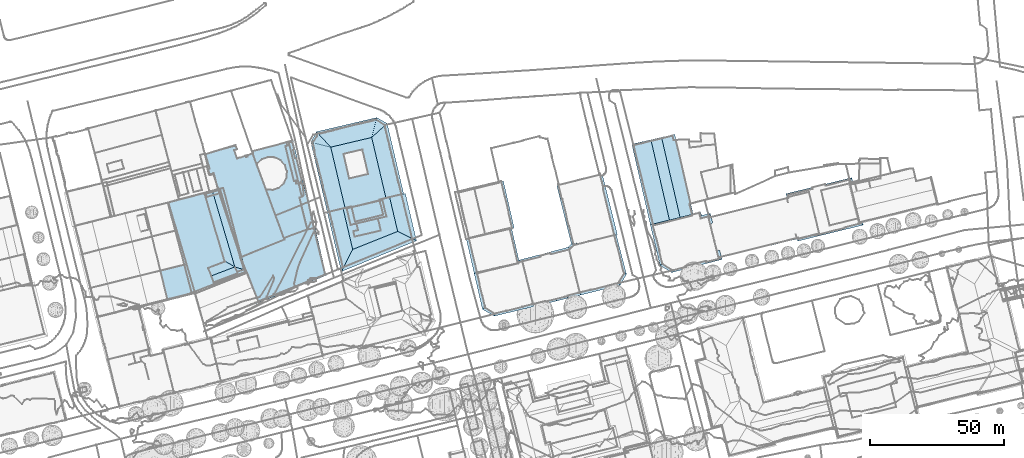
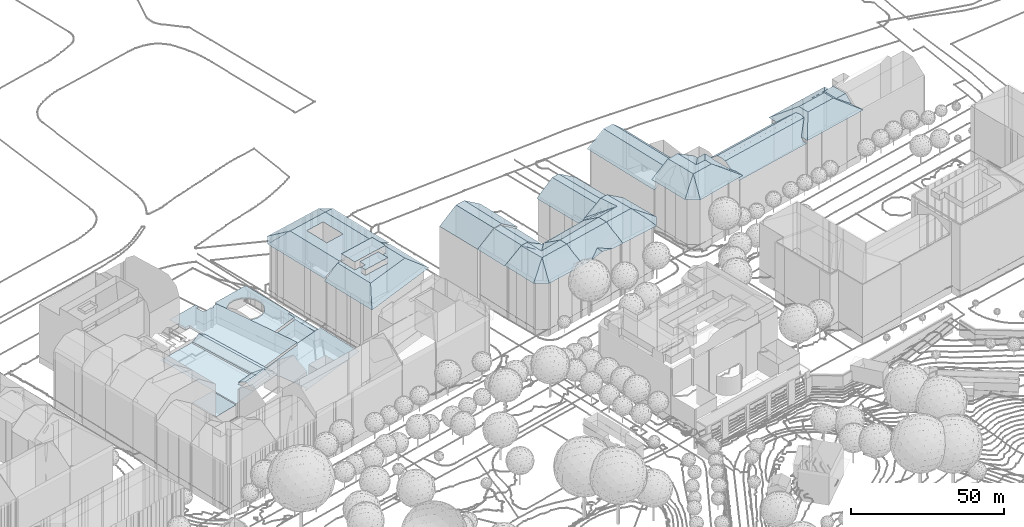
# Not in any storey, part 88 of 477: 20 roofs.
"""IFC4 building model written with IfcOpenShell, lengths in metres."""

from ifc_helpers import new_model, si_unit, frame, origin_with_axes, place, context, subcontext, project, spatial, polygons, element, save


model = new_model("IFC4")

# Units and contexts
model_context = context("Model", 3, precision=1e-05, world=origin_with_axes())
body_context = subcontext(model_context, "Body", "Model", "MODEL_VIEW")
ifc_project = project(units=[si_unit("AREAUNIT", "SQUARE_METRE"), si_unit("LENGTHUNIT", "METRE")], contexts=[model_context])

# Sites, building
site_1_placement = place(None, origin_with_axes())
site_1 = spatial("IfcSite", under=ifc_project, at=site_1_placement, Name="Topoexport Site")
site_2_placement = place(site_1_placement, origin_with_axes())
site_2 = spatial("IfcSite", under=site_1, at=site_2_placement, Name="TPX_BUILDINGS")
building_1_placement = place(site_2_placement, frame((230.2577320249, 452.7801160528, 539.0125), z_axis=(0.0, 0.0, 1.0), x_axis=(1.0, 0.0, 0.0)))
building_1 = spatial("IfcBuilding", under=site_2, at=building_1_placement, Name="Building 197", CompositionType="ELEMENT")

# Roof
roof_1_placement = place(None, frame((230.2577320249, 452.7801160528, 539.0125), z_axis=(0.0, 0.0, 1.0), x_axis=(1.0, 0.0, 0.0)))
element("IfcRoof", 1, at=roof_1_placement, inside=building_1, Name="Roof 0", context=body_context, shape_type="Tessellation", body=[
    polygons([(22.1760000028, 2.0302999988, 25.1226), (6.8570000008, -1.5791000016, 25.1226), (23.8570000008, 8.5830000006, 21.8509), (24.0930000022, 9.504900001, 21.391), (2.2350000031, 3.4296999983, 21.8829), (1.5340000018, 4.1893999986, 21.391), (11.6790000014, -4.1464999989, 25.1226), (13.8490000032, -13.3555000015, 25.1226), (12.2440000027, -24.438500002, 25.1226), (18.75, -2.4805000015, 25.1226), (20.9200000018, -11.6895000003, 25.1226), (27.5240000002, -20.6680000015, 25.1226), (14.689000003, -23.8672000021, 25.1226), (25.1650000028, -21.2373000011, 25.1226), (25.2350000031, -21.5371000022, 25.1226), (14.745000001, -24.0771999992, 25.1226), (29.6030000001, -20.1660000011, 23.9547), (27.1000000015, 6.5088, 21.9449), (27.9580000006, 7.2890000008, 21.391), (34.1680000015, -19.0645000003, 21.3909), (33.3600000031, -19.259800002, 21.8449), (6.3790000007, -25.7998000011, 21.8349), (0.0490000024, 0.0800999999, 21.7119), (-0.5919999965, 0.2353000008, 21.391), (5.5880000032, -25.9902999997, 21.3909)], [[[3, 2, 1]], [[5, 3, 4]], [[3, 5, 2]], [[5, 4, 6]], [[2, 8, 7]], [[8, 2, 9]], [[2, 7, 10]], [[1, 10, 11]], [[10, 1, 2]], [[1, 11, 12]], [[8, 13, 11]], [[13, 14, 11]], [[14, 12, 11]], [[16, 15, 14]], [[14, 13, 16]], [[13, 8, 9]], [[12, 17, 1]], [[20, 19, 18]], [[18, 1, 17]], [[18, 21, 20]], [[18, 17, 21]], [[4, 3, 18]], [[18, 19, 4]], [[1, 18, 3]], [[23, 22, 2]], [[25, 23, 24]], [[22, 9, 2]], [[22, 23, 25]], [[24, 23, 6]], [[5, 6, 23]], [[2, 5, 23]]]),
])

# Building
building_2_placement = place(site_2_placement, frame((236.6347320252, 426.9871160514, 538.7695), z_axis=(0.0, 0.0, 1.0), x_axis=(1.0, 0.0, 0.0)))
building_2 = spatial("IfcBuilding", under=site_2, at=building_2_placement, Name="Building 198", CompositionType="ELEMENT")

# Roofs
roof_2_placement = place(None, frame((236.6347320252, 426.9871160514, 538.7695), z_axis=(0.0, 0.0, 1.0), x_axis=(1.0, 0.0, 0.0)))
element("IfcRoof", 2, at=roof_2_placement, inside=building_2, Name="Roof 0", context=body_context, shape_type="Tessellation", body=[
    polygons([(9.012000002, -7.3016999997, 27.1124), (10.7780000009, -6.8856999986, 27.1124), (9.4869999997, -9.3182999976, 27.1124), (19.2790000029, -7.0117000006, 27.1124), (10.194000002, -4.4043000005, 27.1124), (18.2190000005, -2.5136999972, 27.1124)], [[[3, 2, 1]], [[2, 3, 4]], [[2, 6, 5]], [[6, 2, 4]]]),
])
roof_3_placement = place(None, frame((236.6347320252, 426.9871160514, 538.7695), z_axis=(0.0, 0.0, 1.0), x_axis=(1.0, 0.0, 0.0)))
element("IfcRoof", 3, at=roof_3_placement, inside=building_2, Name="Roof 1", context=body_context, shape_type="Tessellation", body=[
    polygons([(8.6070000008, -19.3710999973, 21.5229), (4.432, -22.3534999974, 20.686), (5.2550000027, -20.7441000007, 21.5019), (8.694000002, -14.0253999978, 24.9116), (25.5140000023, -7.2929999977, 24.9116), (0.0, 0.0, 21.253), (5.0970000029, 1.2393000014, 24.9116), (-0.7899999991, -0.1923999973, 20.686), (9.012000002, -7.3016999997, 24.9116), (9.4869999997, -9.3182999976, 24.9116), (10.7780000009, -6.8856999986, 24.9116), (8.0160000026, -4.9169999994, 24.9116), (10.194000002, -4.4043000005, 24.9116), (19.2790000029, -7.0117000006, 24.9116), (6.5670000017, 1.2305000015, 24.9116), (5.8500000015, 1.4229000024, 24.9116), (8.2880000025, 2.0155999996, 24.9116), (8.3680000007, 1.7158000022, 24.9116), (18.2190000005, -2.5136999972, 24.9116), (21.3790000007, -1.7685000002, 24.9116), (19.9299999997, 4.379900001, 24.9116), (22.5100000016, 5.4530999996, 24.9116), (18.8580000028, 4.2558999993, 24.9116), (18.7880000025, 4.5557000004, 24.9116), (28.3990000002, 6.876000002, 20.686), (32.5620000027, -10.7899999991, 20.686), (31.0030000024, -10.0165999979, 21.6209), (26.9830000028, 6.5331999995, 21.7019), (5.0970000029, 1.2393000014, 24.7116), (5.0980000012, 1.2363000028, 24.7426), (3.375, 0.8203000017, 23.5378), (5.8500000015, 1.4229000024, 24.7116)], [[[3, 2, 1]], [[5, 4, 3]], [[5, 3, 1]], [[7, 6, 3]], [[8, 2, 3]], [[4, 7, 3]], [[3, 6, 8]], [[4, 10, 9]], [[12, 9, 11]], [[12, 11, 13]], [[10, 4, 14]], [[4, 9, 12]], [[12, 7, 4]], [[7, 12, 15]], [[17, 16, 15]], [[15, 16, 7]], [[17, 15, 18]], [[14, 20, 19]], [[20, 14, 5]], [[15, 21, 18]], [[21, 20, 22]], [[22, 20, 5]], [[14, 4, 5]], [[21, 23, 18]], [[21, 24, 23]], [[21, 22, 24]], [[27, 26, 25]], [[5, 27, 28]], [[25, 28, 27]], [[28, 22, 5]], [[1, 2, 26]], [[1, 27, 5]], [[27, 1, 26]], [[31, 30, 29]], [[32, 29, 30]]]),
])
roof_4_placement = place(None, frame((236.6347320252, 426.9871160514, 538.7695), z_axis=(0.0, 0.0, 1.0), x_axis=(1.0, 0.0, 0.0)))
element("IfcRoof", 4, at=roof_4_placement, inside=building_2, Name="Roof 2", context=body_context, shape_type="Tessellation", body=[
    polygons([(8.0160000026, -4.9169999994, 28.0713), (19.9299999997, 4.379900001, 28.0713), (21.3790000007, -1.7685000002, 28.0713), (6.5670000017, 1.2305000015, 28.0713)], [[[3, 2, 1]], [[4, 1, 2]]]),
])

# Building
building_3_placement = place(site_2_placement, frame((283.6617320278, 434.311316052, 538.7775), z_axis=(0.0, 0.0, 1.0), x_axis=(1.0, 0.0, 0.0)))
building_3 = spatial("IfcBuilding", under=site_2, at=building_3_placement, Name="Building 200", CompositionType="ELEMENT")

# Roof
roof_5_placement = place(None, frame((283.6617320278, 434.311316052, 538.7775), z_axis=(0.0, 0.0, 1.0), x_axis=(1.0, 0.0, 0.0)))
element("IfcRoof", 5, at=roof_5_placement, inside=building_3, Name="Roof 0", context=body_context, shape_type="Tessellation", body=[
    polygons([(14.1519999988, -15.2157999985, 26.1374), (9.9450000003, 2.3330000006, 26.1805), (14.2960000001, -15.1748000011, 26.1374), (14.7309999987, -15.0731999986, 26.1374), (11.3239999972, -15.8759000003, 26.1404), (10.8019999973, 2.5371000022, 26.1365), (20.481999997, -13.75, 22.1768), (21.1209999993, -13.6035000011, 21.7359), (4.6229999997, -14.6415999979, 21.9539), (4.1699999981, -17.5546999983, 21.2009), (7.1600000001, 1.6689999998, 26.1705), (0.0, 0.0, 21.1559), (1.1669999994, 0.2725000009, 21.9729), (20.9780000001, -11.8506000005, 21.5749), (22.0720000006, -13.3973999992, 21.0839), (17.4519999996, 3.3311000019, 21.6649), (17.2469999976, 4.0751999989, 21.6909), (18.0109999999, 4.2588, 21.1619)], [[[3, 2, 1]], [[2, 3, 4]], [[2, 5, 1]], [[2, 4, 6]], [[7, 6, 4]], [[6, 7, 8]], [[10, 5, 9]], [[11, 9, 5]], [[13, 12, 9]], [[9, 11, 13]], [[10, 9, 12]], [[5, 2, 11]], [[14, 6, 8]], [[8, 15, 14]], [[17, 6, 16]], [[16, 14, 15]], [[14, 16, 6]], [[16, 15, 18]], [[18, 17, 16]]]),
])

# Building
building_4_placement = place(site_2_placement, frame((308.8567320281, 408.4549160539, 538.5095), z_axis=(0.0, 0.0, 1.0), x_axis=(1.0, 0.0, 0.0)))
building_4 = spatial("IfcBuilding", under=site_2, at=building_4_placement, Name="Building 201", CompositionType="ELEMENT")

# Roof
roof_6_placement = place(None, frame((308.8567320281, 408.4549160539, 538.5095), z_axis=(0.0, 0.0, 1.0), x_axis=(1.0, 0.0, 0.0)))
element("IfcRoof", 6, at=roof_6_placement, inside=building_4, Name="Roof 0", context=body_context, shape_type="Tessellation", body=[
    polygons([(20.5169999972, -7.8545000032, 24.3446), (21.1730000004, -10.4922000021, 22.9007), (16.0429999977, -13.2539000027, 21.9528), (17.5259999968, -13.6045000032, 21.6258), (12.1549999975, -12.3379000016, 22.8087), (21.481999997, -11.7373000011, 22.0998), (21.6899999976, -12.572300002, 21.5059), (12.7699999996, -14.7539000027, 22.6967), (7.8849999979, -15.9854000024, 21.6258), (9.057, -14.9844000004, 21.9508), (3.057, -12.2881000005, 24.3036), (5.8849999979, -15.5283000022, 22.1838), (3.7410000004, -15.0381000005, 22.7807), (4.0009999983, -16.0850000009, 22.1238), (4.1969999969, -16.875, 21.6278), (1.8229999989, -7.3281000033, 26.2114), (19.6349999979, -4.3057000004, 26.2034), (19.8399999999, -5.130900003, 26.2024), (2.3619999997, -9.4942000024, 26.2094), (-0.199000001, 0.7987999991, 21.4219), (17.0199999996, 5.3085999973, 21.3799), (7.6030000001, 2.3261999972, 21.6629), (6.7300000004, 2.0487999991, 21.6889), (1.2280000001, 0.3055999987, 21.8539), (0.0, 0.0, 21.8489), (0.0189999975, -0.077200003, 21.8899), (1.0329999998, -4.1513999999, 24.6236), (13.9749999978, 3.5067999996, 21.9978), (18.9299999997, -1.4707000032, 26.1614), (1.5929999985, -6.4024000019, 26.1974), (17.4709999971, 4.3944999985, 22.0598), (17.2699999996, 5.2030999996, 21.4949), (17.2009999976, 5.4794999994, 21.3729)], [[[3, 2, 1]], [[3, 4, 2]], [[5, 3, 1]], [[2, 4, 6]], [[6, 4, 7]], [[5, 8, 3]], [[8, 4, 3]], [[10, 9, 8]], [[8, 5, 10]], [[10, 5, 11]], [[9, 10, 12]], [[10, 13, 12]], [[13, 10, 11]], [[13, 14, 12]], [[15, 9, 12]], [[15, 12, 14]], [[18, 17, 16]], [[16, 19, 18]], [[1, 18, 19]], [[1, 11, 5]], [[11, 1, 19]], [[22, 21, 20]], [[23, 22, 20]], [[25, 24, 23]], [[26, 24, 25]], [[25, 23, 20]], [[27, 24, 26]], [[24, 27, 23]], [[28, 21, 22]], [[23, 27, 22]], [[22, 27, 28]], [[27, 29, 28]], [[29, 27, 30]], [[32, 28, 31]], [[21, 28, 32]], [[31, 28, 29]], [[30, 16, 17]], [[17, 29, 30]], [[32, 33, 21]]]),
])

# Building
building_5_placement = place(site_2_placement, frame((291.8077320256, 404.2273160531, 538.5095), z_axis=(0.0, 0.0, 1.0), x_axis=(1.0, 0.0, 0.0)))
building_5 = spatial("IfcBuilding", under=site_2, at=building_5_placement, Name="Building 202", CompositionType="ELEMENT")

# Roof
roof_7_placement = place(None, frame((291.8077320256, 404.2273160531, 538.5095), z_axis=(0.0, 0.0, 1.0), x_axis=(1.0, 0.0, 0.0)))
element("IfcRoof", 7, at=roof_7_placement, inside=building_5, Name="Roof 0", context=body_context, shape_type="Tessellation", body=[
    polygons([(9.0560000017, 2.1123999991, 25.9625), (10.2349999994, -4.5654000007, 26.2154), (8.7290000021, 2.0372000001, 26.1704), (6.251000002, 1.4580999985, 26.1834), (15.3000000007, 3.6279999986, 22.2338), (15.813000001, 3.7529999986, 21.9278), (6.0329999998, 1.4072999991, 26.1255), (8.4750000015, -7.9970000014, 26.2134), (20.1060000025, -8.0604999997, 24.3036), (20.7900000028, -10.8104999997, 22.7807), (21.2459999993, -12.6473999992, 21.6278), (6.4940000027, -16.2080000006, 21.6357), (6.688000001, -15.4052000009, 22.0827), (21.0500000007, -11.8574000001, 22.1238), (2.0260000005, -13.6766999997, 21.6257), (0.4189999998, -1.4394000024, 22.3578), (-1.0500000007, -0.2431000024, 21.6549), (0.0, 0.0, 22.3178), (18.6420000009, -2.1748000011, 26.1974), (18.0820000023, 0.0762000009, 24.6236), (18.8720000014, -3.1005000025, 26.2114), (19.4110000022, -5.2666000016, 26.2094), (15.6740000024, 4.7188000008, 21.4249), (17.0490000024, 4.2276000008, 21.8489), (15.7900000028, 3.9122000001, 21.8449), (17.068, 4.1503999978, 21.8899), (16.8500000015, 5.0263999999, 21.4219)], [[[3, 2, 1]], [[3, 4, 2]], [[1, 2, 5]], [[6, 5, 2]], [[2, 4, 7]], [[8, 2, 7]], [[8, 10, 9]], [[13, 12, 11]], [[8, 13, 10]], [[13, 14, 10]], [[14, 13, 11]], [[12, 13, 15]], [[15, 13, 8]], [[18, 17, 16]], [[16, 8, 7]], [[16, 7, 18]], [[16, 17, 15]], [[15, 8, 16]], [[20, 2, 19]], [[2, 21, 19]], [[2, 8, 21]], [[22, 21, 8]], [[8, 9, 22]], [[25, 24, 23]], [[26, 25, 6]], [[24, 27, 23]], [[24, 25, 26]], [[26, 6, 2]], [[2, 20, 26]]]),
])

# Building
building_6_placement = place(site_2_placement, frame((322.3647320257, 436.9627160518, 538.8935), z_axis=(0.0, 0.0, 1.0), x_axis=(1.0, 0.0, 0.0)))
building_6 = spatial("IfcBuilding", under=site_2, at=building_6_placement, Name="Building 203", CompositionType="ELEMENT")

# Roof
roof_8_placement = place(None, frame((322.3647320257, 436.9627160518, 538.8935), z_axis=(0.0, 0.0, 1.0), x_axis=(1.0, 0.0, 0.0)))
element("IfcRoof", 8, at=roof_8_placement, inside=building_6, Name="Roof 0", context=body_context, shape_type="Tessellation", body=[
    polygons([(9.0160000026, 2.2666000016, 22.2648), (14.6490000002, -20.2509999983, 22.2648), (11.8310000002, -20.9481999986, 22.2648), (6.2010000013, 1.558600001, 22.2648), (5.693, -22.4668000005, 17.8982), (0.0, 0.0, 17.8492), (-0.7179999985, -0.1796999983, 17.3383), (4.9059999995, -22.6620999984, 17.3382), (15.5370000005, 3.9061999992, 17.8512), (21.9340000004, -18.4481999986, 17.3382), (20.9400000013, -18.6942999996, 18.0102), (16.2939999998, 4.0956999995, 17.3383)], [[[3, 2, 1]], [[3, 1, 4]], [[6, 5, 3]], [[6, 3, 4]], [[8, 6, 7]], [[6, 8, 5]], [[11, 10, 9]], [[2, 11, 1]], [[11, 9, 1]], [[9, 10, 12]]]),
])

# Building
building_7_placement = place(site_2_placement, frame((288.8057320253, 417.0477160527, 538.6815), z_axis=(0.0, 0.0, 1.0), x_axis=(1.0, 0.0, 0.0)))
building_7 = spatial("IfcBuilding", under=site_2, at=building_7_placement, Name="Building 204", CompositionType="ELEMENT")

# Roof
roof_9_placement = place(None, frame((288.8057320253, 417.0477160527, 538.6815), z_axis=(0.0, 0.0, 1.0), x_axis=(1.0, 0.0, 0.0)))
element("IfcRoof", 9, at=roof_9_placement, inside=building_7, Name="Roof 0", context=body_context, shape_type="Tessellation", body=[
    polygons([(12.0899999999, -10.7422000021, 25.9554), (6.3619999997, 1.4580000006, 25.9555), (9.1500000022, 2.0956999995, 25.9555), (9.3030000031, -11.379900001, 25.9555), (15.3370000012, 3.5135999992, 21.6959), (18.3300000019, -9.3125, 21.6609), (18.9220000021, -9.1768000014, 21.2529), (15.9810000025, 3.6611000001, 21.2529), (3.0020000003, -12.8233000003, 21.9248), (0.0, 0.0, 21.8859), (1.9519999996, -13.063500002, 21.2529), (-0.9890000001, -0.2256000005, 21.2529)], [[[3, 2, 1]], [[4, 1, 2]], [[1, 6, 5]], [[8, 6, 7]], [[1, 5, 3]], [[5, 6, 8]], [[9, 4, 2]], [[11, 9, 10]], [[2, 10, 9]], [[10, 12, 11]]]),
])

# Building
building_8_placement = place(site_2_placement, frame((326.3277320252, 412.8494160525, 538.5095), z_axis=(0.0, 0.0, 1.0), x_axis=(1.0, 0.0, 0.0)))
building_8 = spatial("IfcBuilding", under=site_2, at=building_8_placement, Name="Building 205", CompositionType="ELEMENT")

# Roof
roof_10_placement = place(None, frame((326.3277320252, 412.8494160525, 538.5095), z_axis=(0.0, 0.0, 1.0), x_axis=(1.0, 0.0, 0.0)))
element("IfcRoof", 10, at=roof_10_placement, inside=building_8, Name="Roof 0", context=body_context, shape_type="Tessellation", body=[
    polygons([(4.012000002, -16.1328000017, 22.0998), (16.4050000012, -10.253899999, 23.5867), (4.2190000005, -16.9668000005, 21.5059), (13.1330000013, -6.8388999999, 26.1984), (3.7020000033, -14.8867000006, 22.9007), (3.0460000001, -12.2490000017, 24.3446), (10.2670000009, 3.7578000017, 26.2694), (9.9060000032, -3.4629000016, 26.1434), (9.9140000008, 3.6708999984, 26.2564), (2.1640000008, -8.7001999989, 26.2034), (1.4590000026, -5.8652000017, 26.1614), (2.3690000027, -9.5254000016, 26.2024), (7.6760000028, 3.1171999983, 26.2614), (7.4759999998, 3.0683999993, 26.2614), (1.7750000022, 1.6572000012, 21.7879), (0.9140000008, 2.1992000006, 21.3269), (-0.2699999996, 1.0850000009, 21.3729), (-0.2009999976, 0.808600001, 21.4949), (0.5260000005, 0.5009999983, 21.8298), (0.0, 0.0, 22.0598), (18.745000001, -11.9169999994, 21.7338), (19.0950000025, -13.2811999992, 21.0779), (18.3960000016, -12.496100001, 21.7298), (17.7730000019, -8.128899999, 23.5547), (17.4280000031, 3.253899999, 21.8478), (16.9660000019, 5.4160000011, 21.7678), (17.3600000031, 5.5146999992, 21.5089), (10.6460000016, 3.8526000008, 26.0254), (20.5439999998, -8.8817999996, 21.8728), (21.3840000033, -9.1094000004, 21.3629), (17.5700000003, 5.566399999, 21.3629)], [[[3, 2, 1]], [[1, 2, 4]], [[1, 4, 5]], [[5, 4, 6]], [[9, 8, 7]], [[4, 7, 8]], [[11, 10, 4]], [[4, 8, 11]], [[4, 10, 12]], [[6, 4, 12]], [[14, 8, 13]], [[13, 8, 9]], [[16, 15, 14]], [[8, 14, 15]], [[16, 17, 15]], [[19, 17, 18]], [[8, 15, 17]], [[8, 17, 19]], [[11, 8, 19]], [[19, 18, 20]], [[19, 20, 11]], [[23, 22, 21]], [[24, 2, 23]], [[24, 23, 21]], [[24, 4, 2]], [[27, 26, 25]], [[25, 4, 24]], [[4, 25, 26]], [[2, 3, 23]], [[22, 23, 3]], [[28, 4, 26]], [[7, 4, 28]], [[29, 25, 24]], [[25, 29, 30]], [[25, 31, 27]], [[31, 25, 30]], [[21, 22, 30]], [[29, 24, 21]], [[30, 29, 21]]]),
])

# Building
building_9_placement = place(site_2_placement, frame((350.3717320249, 451.8328160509, 539.2744), z_axis=(0.0, 0.0, 1.0), x_axis=(1.0, 0.0, 0.0)))
building_9 = spatial("IfcBuilding", under=site_2, at=building_9_placement, Name="Building 206", CompositionType="ELEMENT")

# Roof
roof_11_placement = place(None, frame((350.3717320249, 451.8328160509, 539.2744), z_axis=(0.0, 0.0, 1.0), x_axis=(1.0, 0.0, 0.0)))
element("IfcRoof", 11, at=roof_11_placement, inside=building_9, Name="Roof 0", context=body_context, shape_type="Tessellation", body=[
    polygons([(10.568, 2.5850000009, 21.9849), (6.6030000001, 1.6152000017, 21.9849), (6.4800000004, 2.1455000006, 21.9849), (10.4570000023, 3.0654000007, 21.9849), (17.6970000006, -28.2821999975, 21.9848), (13.7200000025, -29.2011999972, 21.9848), (15.3710000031, 4.2012000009, 17.4763), (15.875, 2.0215000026, 17.4763), (21.376000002, -21.8007999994, 17.4763), (22.6110000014, -27.1473999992, 17.4763), (-0.6949999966, 0.4893000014, 17.4763), (6.5450000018, -30.8583999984, 17.4763)], [[[3, 2, 1]], [[1, 4, 3]], [[2, 5, 1]], [[6, 5, 2]], [[4, 1, 7]], [[8, 7, 1]], [[1, 9, 8]], [[10, 9, 5]], [[5, 9, 1]], [[11, 2, 3]], [[2, 11, 6]], [[12, 6, 11]]]),
])

# Building
building_10_placement = place(site_2_placement, frame((378.372732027, 425.1658160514, 539.4553), z_axis=(0.0, 0.0, 1.0), x_axis=(1.0, 0.0, 0.0)))
building_10 = spatial("IfcBuilding", under=site_2, at=building_10_placement, Name="Building 207", CompositionType="ELEMENT")

# Roof
roof_12_placement = place(None, frame((378.372732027, 425.1658160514, 539.4553), z_axis=(0.0, 0.0, 1.0), x_axis=(1.0, 0.0, 0.0)))
element("IfcRoof", 12, at=roof_12_placement, inside=building_10, Name="Roof 0", context=body_context, shape_type="Tessellation", body=[
    polygons([(49.7650000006, 8.259800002, 24.2637), (42.9739999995, 6.5987000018, 24.2637), (42.9589999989, 6.6601999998, 24.2637), (53.7670000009, 9.3027999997, 24.2637), (55.1570000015, 3.6768000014, 24.3037), (51.068, 2.6768000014, 24.3037), (55.8299999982, 0.9530999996, 21.5439), (49.5329999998, 2.0401000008, 25.3786), (38.449000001, -0.6708999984, 25.3786), (37.4340000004, 3.4814999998, 25.3786), (48.5179999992, 6.1933999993, 25.3786), (29.8159999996, 8.1328000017, 21.259), (29.8669999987, 5.1484999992, 20.827), (29.436999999, 6.9081999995, 20.827), (29.0179999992, 8.6201000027, 20.827), (35.7190000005, 2.5595999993, 24.1447), (36.4279999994, 0.6865000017, 24.3047), (33.0839999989, -8.0057999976, 20.827), (32.6669999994, -6.2987999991, 20.827), (33.8370000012, -8.3134999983, 21.2579), (33.3550000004, -9.1132999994, 20.827), (36.6629999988, -1.3016999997, 24.1447), (56.631000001, -2.2928999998, 21.5399), (57.949000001, -3.0975999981, 20.827), (56.9820000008, -2.5077999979, 21.3499), (57.0370000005, -2.5409999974, 21.3199), (54.2650000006, 11.9629000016, 20.827), (53.3000000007, 11.1953000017, 21.5599), (53.2829999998, 11.2655999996, 21.5599), (52.936999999, 13.5175999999, 21.4289), (49.8530000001, 8.4063000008, 24.1847), (53.6110000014, 14.634800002, 20.827), (42.9450000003, 6.7168000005, 24.1847), (32.7230000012, -6.5282999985, 20.627), (3.7060000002, -14.8319999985, 19.6311), (33.0839999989, -8.0057999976, 19.3341), (3.8720000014, -15.4969999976, 19.0482), (4.3539999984, -15.378899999, 19.0482), (2.4180000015, -9.6766999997, 24.1447), (33.7300000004, -8.1952999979, 19.0482), (33.6479999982, -7.8662, 19.3361), (2.6609999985, -12.436499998, 21.8189), (2.0109999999, -9.7773000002, 24.1447), (3.1570000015, -12.6367000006, 21.5529), (1.5390000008, -7.8456999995, 24.3047), (1.0659999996, -5.9149999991, 24.1447), (0.3500000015, -2.9862999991, 21.5829), (0.6510000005, -2.6044999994, 21.328), (29.8110000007, 5.3780000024, 20.627), (0.4160000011, 0.1016000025, 19.0488), (29.4371000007, 6.9079999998, 19.2895), (0.0, 0.0, 19.0488), (29.9499999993, 7.3252000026, 19.0482), (30.0179999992, 7.0527999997, 19.2872), (57.4529999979, -1.0692999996, 20.827), (56.193, -0.5185000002, 21.5419)], [[[3, 2, 1]], [[1, 5, 4]], [[5, 1, 6]], [[1, 4, 3]], [[6, 7, 5]], [[10, 9, 8]], [[8, 11, 10]], [[14, 13, 12]], [[15, 14, 12]], [[12, 16, 10]], [[16, 12, 13]], [[10, 16, 17]], [[20, 19, 18]], [[20, 18, 21]], [[17, 9, 10]], [[9, 17, 22]], [[22, 20, 9]], [[19, 20, 22]], [[23, 9, 20]], [[23, 8, 9]], [[20, 21, 24]], [[26, 25, 20]], [[25, 23, 20]], [[26, 20, 24]], [[29, 28, 27]], [[31, 29, 30]], [[27, 32, 30]], [[27, 30, 29]], [[30, 32, 12]], [[1, 2, 11]], [[30, 33, 31]], [[30, 12, 33]], [[12, 32, 15]], [[33, 12, 10]], [[10, 2, 33]], [[2, 10, 11]], [[35, 34, 19]], [[36, 34, 35]], [[38, 35, 37]], [[36, 35, 38]], [[19, 22, 39]], [[41, 36, 40]], [[38, 40, 36]], [[39, 43, 42]], [[44, 19, 42]], [[35, 19, 44]], [[19, 39, 42]], [[22, 45, 39]], [[45, 22, 17]], [[45, 43, 39]], [[17, 16, 45]], [[45, 16, 46]], [[46, 16, 13]], [[48, 47, 13]], [[13, 47, 46]], [[48, 13, 49]], [[52, 51, 50]], [[49, 52, 48]], [[51, 52, 49]], [[54, 53, 51]], [[51, 53, 50]], [[24, 55, 26]], [[55, 25, 26]], [[25, 55, 23]], [[55, 56, 23]], [[6, 56, 7]], [[8, 6, 11]], [[8, 23, 6]], [[11, 6, 1]], [[6, 23, 56]], [[33, 3, 31]], [[31, 3, 4]], [[31, 4, 29]]]),
])

# Building
building_11_placement = place(site_2_placement, frame((357.6657320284, 421.8289160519, 539.1994), z_axis=(0.0, 0.0, 1.0), x_axis=(1.0, 0.0, 0.0)))
building_11 = spatial("IfcBuilding", under=site_2, at=building_11_placement, Name="Building 208", CompositionType="ELEMENT")

# Roof
roof_13_placement = place(None, frame((357.6657320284, 421.8289160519, 539.1994), z_axis=(0.0, 0.0, 1.0), x_axis=(1.0, 0.0, 0.0)))
element("IfcRoof", 13, at=roof_13_placement, inside=building_11, Name="Roof 0", context=body_context, shape_type="Tessellation", body=[
    polygons([(17.9029999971, 2.6816000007, 21.7559), (17.7619999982, 3.1669999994, 21.4499), (18.1679999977, 3.8115000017, 21.1109), (16.1769999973, -4.6942999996, 25.9655), (12.3409999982, -5.442400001, 25.9655), (20.6989999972, 3.371100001, 21.7719), (21.3929999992, 4.6074000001, 21.1289), (20.9549999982, 2.3456999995, 21.7799), (21.7029999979, 3.4483000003, 21.1249), (21.4729999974, 0.2743999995, 21.7859), (22.2619999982, 1.2734000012, 21.1209), (21.4959999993, 0.1777999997, 21.7869), (17.1619999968, 4.7021999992, 21.6109), (10.4019999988, 2.6436000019, 25.9645), (10.2859999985, 3.128899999, 25.9645), (17.2289999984, 4.8427999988, 21.5499), (17.8669999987, 5.0, 21.1349), (6.5079999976, 2.1953000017, 25.9655), (6.055999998, 2.0850000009, 25.9655), (6.182, 1.572300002, 25.9655), (8.9079999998, -9.5381000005, 25.9685), (0.0639999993, -0.2567999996, 21.8319), (-0.6010000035, 0.4404000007, 21.5209), (16.8759999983, -7.5830000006, 25.9654), (7.8339999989, -16.6503999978, 21.5419), (6.9599999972, -17.5273000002, 21.1139), (7.1589999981, -16.7118999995, 21.6089), (3.4959999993, -14.1338, 21.8198), (2.6209999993, -14.8779000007, 21.1489), (-1.0480000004, 0.3311000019, 21.2199), (24.5179999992, -11.9131000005, 21.9588), (24.379999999, -11.3623000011, 21.9558), (25.6219999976, -11.9882999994, 21.2919), (25.7829999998, -12.629900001, 21.2959), (23.932, -9.5713, 22.0188), (25.0949999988, -9.8984000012, 21.3689), (22.1539999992, -2.4512000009, 21.8308), (22.2019999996, -2.6475000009, 21.8358), (22.3929999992, -3.4100999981, 21.8478), (22.943, -5.6112999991, 21.8838), (22.6509999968, -4.442400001, 21.8638), (22.9919999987, -5.808600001, 21.8828), (23.0419999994, -6.0088, 21.8818), (23.125, -6.3388999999, 21.8938), (23.754999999, -8.8623000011, 21.9918), (24.9549999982, -9.3486000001, 21.3489)], [[[3, 2, 1]], [[1, 5, 4]], [[5, 1, 2]], [[1, 4, 6]], [[3, 6, 7]], [[6, 3, 1]], [[9, 7, 8]], [[6, 4, 8]], [[6, 8, 7]], [[11, 9, 10]], [[10, 9, 8]], [[10, 4, 12]], [[4, 10, 8]], [[14, 5, 13]], [[14, 16, 15]], [[16, 14, 13]], [[17, 16, 13]], [[17, 13, 2]], [[2, 3, 17]], [[5, 2, 13]], [[14, 15, 18]], [[5, 14, 18]], [[20, 18, 19]], [[21, 5, 18]], [[21, 18, 20]], [[23, 22, 20]], [[23, 20, 19]], [[20, 22, 21]], [[5, 24, 4]], [[21, 24, 5]], [[27, 26, 25]], [[25, 24, 21]], [[25, 21, 27]], [[26, 27, 28]], [[26, 28, 29]], [[28, 27, 21]], [[23, 30, 22]], [[22, 30, 29]], [[28, 21, 22]], [[29, 28, 22]], [[32, 24, 31]], [[34, 33, 32]], [[34, 32, 31]], [[35, 24, 32]], [[33, 36, 35]], [[33, 35, 32]], [[25, 26, 34]], [[25, 31, 24]], [[31, 25, 34]], [[37, 12, 4]], [[38, 37, 4]], [[4, 39, 38]], [[41, 4, 40]], [[41, 39, 4]], [[43, 42, 4]], [[4, 24, 43]], [[4, 42, 40]], [[24, 45, 44]], [[24, 44, 43]], [[35, 36, 46]], [[46, 45, 35]], [[35, 45, 24]]]),
])

# Building
building_12_placement = place(site_2_placement, frame((171.6827320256, 464.931416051, 544.4901), z_axis=(0.0, 0.0, 1.0), x_axis=(1.0, 0.0, 0.0)))
building_12 = spatial("IfcBuilding", under=site_2, at=building_12_placement, Name="Building 223", CompositionType="ELEMENT")

# Roofs
roof_14_placement = place(None, frame((171.6827320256, 464.931416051, 544.4901), z_axis=(0.0, 0.0, 1.0), x_axis=(1.0, 0.0, 0.0)))
element("IfcRoof", 14, at=roof_14_placement, inside=building_12, Name="Roof 1", context=body_context, shape_type="Tessellation", body=[
    polygons([(21.7699999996, -64.3495999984, 2.0357), (30.7530000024, -60.8993999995, 2.0357), (33.6080000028, -60.4159999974, 2.0357), (33.0670000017, -59.6063999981, 2.0357), (31.9940000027, -55.9725999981, 2.0357), (32.1319999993, -54.8358999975, 2.0357), (30.4890000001, -60.3671000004, 2.0357), (14.1190000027, -68.0711999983, 2.0357), (14.1380000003, -68.1405999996, 2.0357), (13.5439999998, -68.297799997, 2.0357), (19.699000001, -58.9579999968, 2.0357), (31.6400000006, -55.0361000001, 2.0357), (20.2210000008, -30.4725999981, 2.0357), (20.3080000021, -30.8084999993, 2.0357), (18.4000000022, -31.3719999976, 2.0357), (7.3910000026, -45.0252999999, 2.0357), (25.8440000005, -56.5965999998, 2.0357), (8.762000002, -33.4375, 2.0357), (4.6040000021, -34.4872999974, 2.0357), (8.75, -33.3915999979, 2.0357)], [[[3, 2, 1]], [[2, 3, 4]], [[6, 5, 4]], [[2, 4, 7]], [[6, 4, 3]], [[10, 9, 8]], [[8, 3, 1]], [[1, 11, 8]], [[10, 8, 11]], [[12, 5, 6]], [[15, 14, 13]], [[16, 10, 11]], [[17, 15, 16]], [[16, 15, 18]], [[18, 20, 19]], [[18, 15, 13]], [[18, 19, 16]], [[16, 11, 17]]]),
])
roof_15_placement = place(None, frame((171.6827320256, 464.931416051, 544.4901), z_axis=(0.0, 0.0, 1.0), x_axis=(1.0, 0.0, 0.0)))
element("IfcRoof", 15, at=roof_15_placement, inside=building_12, Name="Roof 2", context=body_context, shape_type="Tessellation", body=[
    polygons([(48.182, -48.302699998, 2.2926), (24.2270000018, -29.6512999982, 2.2927), (30.4830000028, -18.0086999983, 2.2927), (37.0789999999, -18.2079999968, 2.2927), (33.8560000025, -17.4881999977, 2.2927), (31.7090000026, -55.0077999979, 2.2926), (34.4930000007, -17.2625999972, 2.2927), (36.3110000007, -16.125, 2.2927), (31.5340000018, -17.7567999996, 2.2927), (24.2190000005, -14.7264999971, 2.2927), (21.7800000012, -23.5692999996, 2.2927), (20.3080000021, -30.8084999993, 2.2927), (23.3570000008, -29.6620999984, 2.2927), (20.2210000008, -30.4725999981, 2.2927), (19.9979999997, -24.0301999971, 2.2927), (19.5910000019, -20.7987999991, 2.2927), (34.3350000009, -16.8084999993, 2.2927), (33.6999999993, -17.0350999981, 2.2927), (29.4389999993, -14.9199000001, 2.2927), (29.9849999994, -13.2342999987, 2.2927), (30.4539999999, -14.6063999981, 2.2927), (31.5030000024, -17.6629999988, 2.2927), (19.1810000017, -20.9041999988, 2.2927), (18.4100000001, -16.2303999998, 2.2927)], [[[3, 2, 1]], [[5, 1, 4]], [[1, 2, 6]], [[8, 7, 4]], [[1, 5, 9]], [[7, 5, 4]], [[11, 2, 10]], [[2, 13, 12]], [[12, 13, 14]], [[16, 15, 11]], [[2, 11, 13]], [[17, 7, 8]], [[18, 9, 5]], [[21, 20, 19]], [[9, 22, 3]], [[23, 15, 16]], [[10, 24, 11]], [[3, 10, 2]], [[24, 16, 11]], [[10, 19, 20]], [[3, 19, 10]], [[1, 9, 3]]]),
])
roof_16_placement = place(None, frame((171.6827320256, 464.931416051, 544.4901), z_axis=(0.0, 0.0, 1.0), x_axis=(1.0, 0.0, 0.0)))
element("IfcRoof", 16, at=roof_16_placement, inside=building_12, Name="Roof 3", context=body_context, shape_type="Tessellation", body=[
    polygons([(20.818, -61.870099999, 4.4094), (26.1090000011, -56.495099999, 2.7386), (29.568, -58.5086999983, 4.4094), (19.699000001, -58.9579999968, 2.7386), (21.7699999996, -64.3495999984, 2.7386), (30.7530000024, -60.8993999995, 2.7386), (24.2270000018, -29.6512999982, 2.5667), (31.7090000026, -55.0077999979, 2.5666), (21.3060000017, -30.5135999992, 4.4095), (33.0670000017, -59.6063999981, 2.5666), (31.9940000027, -55.9725999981, 2.5666), (29.9070000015, -59.191399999, 3.7325), (30.4890000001, -60.3671000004, 2.5666), (18.4000000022, -31.3719999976, 2.5667), (25.8440000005, -56.5965999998, 2.5666)], [[[3, 2, 1]], [[4, 1, 2]], [[1, 5, 3]], [[6, 3, 5]], [[9, 8, 7]], [[8, 9, 3]], [[11, 3, 10]], [[3, 11, 8]], [[3, 12, 10]], [[13, 10, 12]], [[9, 14, 2]], [[15, 2, 14]], [[2, 3, 9]]]),
])

# Building
building_13_placement = place(site_2_placement, frame((207.923732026, 449.1404160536, 539.0145), z_axis=(0.0, 0.0, 1.0), x_axis=(1.0, 0.0, 0.0)))
building_13 = spatial("IfcBuilding", under=site_2, at=building_13_placement, Name="Building 224", CompositionType="ELEMENT")

# Roofs
roof_17_placement = place(None, frame((207.923732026, 449.1404160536, 539.0145), z_axis=(0.0, 0.0, 1.0), x_axis=(1.0, 0.0, 0.0)))
element("IfcRoof", 17, at=roof_17_placement, inside=building_13, Name="Roof 0", context=body_context, shape_type="Tessellation", body=[
    polygons([(0.0219999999, 0.4921999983, 7.7673), (0.0700000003, -0.3340000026, 7.7683), (-0.2129999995, 0.4316999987, 7.7683), (0.3940000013, 0.5888999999, 7.7653), (1.7789999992, -4.0381000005, 7.7663), (1.5820000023, -4.4345000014, 7.7683), (0.8379999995, -2.4169999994, 7.7683), (3.6060000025, -2.4384000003, 7.7553), (5.9059999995, -1.6621000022, 7.7433), (13.5520000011, 4.0108000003, 7.6973), (10.504999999, -2.8993999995, 7.7233), (8.3289999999, -1.8232000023, 7.7323), (12.1040000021, -4.7275000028, 7.7193), (8.6290000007, -23.5361000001, 7.7682), (5.0430000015, -13.8154000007, 7.7683), (5.0930000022, -13.8408000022, 7.7683), (9.8159999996, -13.2256000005, 7.7453), (7.5159999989, -14.0029000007, 7.7573), (18.2659999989, -19.5996000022, 7.7163), (11.6429999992, -11.6269000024, 7.7333), (18.4649999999, -16.4189000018, 7.7093), (12.7199999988, -9.451100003, 7.7243), (12.8819999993, -7.0273000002, 7.7193), (17.5980000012, -16.9101000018, 7.7143), (1.1339999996, -3.2177000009, 7.7633), (1.5820000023, -4.4345000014, 7.5683), (0.8379999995, -2.4169999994, 7.5683), (1.1339999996, -3.2177000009, 7.5733)], [[[3, 2, 1]], [[4, 1, 2]], [[7, 6, 5]], [[4, 2, 7]], [[8, 7, 5]], [[10, 4, 9]], [[8, 4, 7]], [[9, 4, 8]], [[12, 11, 10]], [[9, 12, 10]], [[10, 11, 13]], [[16, 15, 14]], [[18, 14, 17]], [[14, 18, 16]], [[20, 17, 19]], [[19, 17, 14]], [[23, 22, 21]], [[23, 21, 10]], [[24, 21, 22]], [[24, 22, 20]], [[20, 19, 24]], [[23, 10, 13]], [[25, 6, 7]], [[28, 27, 26]]]),
])
roof_18_placement = place(None, frame((207.923732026, 449.1404160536, 539.0145), z_axis=(0.0, 0.0, 1.0), x_axis=(1.0, 0.0, 0.0)))
element("IfcRoof", 18, at=roof_18_placement, inside=building_13, Name="Roof 1", context=body_context, shape_type="Tessellation", body=[
    polygons([(18.4649999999, -16.4189000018, 6.0944), (20.5520000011, -28.8125, 6.0944), (17.5989999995, -16.9101000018, 6.0944), (23.0380000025, -28.2519000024, 6.0944), (14.2890000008, 4.2021999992, 6.0944), (13.5520000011, 4.0108000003, 6.0944), (15.129999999, 4.4208999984, 6.0944)], [[[3, 2, 1]], [[1, 2, 4]], [[5, 1, 4]], [[6, 1, 5]], [[5, 4, 7]]]),
])

# Building
building_14_placement = place(site_2_placement, frame((203.3227320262, 409.8953160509, 538.7355), z_axis=(0.0, 0.0, 1.0), x_axis=(1.0, 0.0, 0.0)))
building_14 = spatial("IfcBuilding", under=site_2, at=building_14_placement, Name="Building 225", CompositionType="ELEMENT")

# Roof
roof_19_placement = place(None, frame((203.3227320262, 409.8953160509, 538.7355), z_axis=(0.0, 0.0, 1.0), x_axis=(1.0, 0.0, 0.0)))
element("IfcRoof", 19, at=roof_19_placement, inside=building_14, Name="Roof 0", context=body_context, shape_type="Tessellation", body=[
    polygons([(22.8669999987, 19.6455000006, 6.8984), (22.7740000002, 20.0195000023, 6.8984), (23.1500000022, 20.1485000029, 6.8984), (25.4050000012, 10.6123000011, 6.8983), (16.3520000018, 7.2471000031, 6.8983), (13.2300000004, 15.7090000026, 6.8984), (6.8339999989, -16.4862999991, 7.0823), (5.7129999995, -17.3515999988, 7.0823), (5.5879999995, -16.9843999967, 7.0823), (1.9690000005, -5.3827999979, 7.0823), (1.8099999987, -4.7831999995, 7.0823), (2.0280000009, -5.3593999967, 7.0823), (2.5639999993, -5.7890999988, 7.0823), (32.1390000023, -6.6561999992, 7.0823), (27.8790000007, 11.5322000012, 7.0823), (16.5419999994, 6.7334000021, 7.0823), (2.2400000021, -5.9188999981, 7.0823), (0.0, 0.0, 7.0823), (16.3520000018, 7.2471000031, 7.0823)], [[[3, 2, 1]], [[3, 1, 4]], [[1, 5, 4]], [[5, 1, 6]], [[9, 8, 7]], [[12, 11, 10]], [[12, 13, 11]], [[7, 14, 13]], [[14, 7, 8]], [[14, 15, 13]], [[13, 16, 11]], [[13, 12, 17]], [[18, 11, 16]], [[13, 15, 16]], [[15, 19, 16]]]),
])

# Building
building_15_placement = place(site_2_placement, frame((147.4227320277, 398.5125160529, 538.0286), z_axis=(0.0, 0.0, 1.0), x_axis=(1.0, 0.0, 0.0)))
building_15 = spatial("IfcBuilding", under=site_2, at=building_15_placement, Name="Building 228", CompositionType="ELEMENT")

# Roof
roof_20_placement = place(None, frame((147.4227320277, 398.5125160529, 538.0286), z_axis=(0.0, 0.0, 1.0), x_axis=(1.0, 0.0, 0.0)))
element("IfcRoof", 20, at=roof_20_placement, inside=building_15, Name="Roof 1", context=body_context, shape_type="Tessellation", body=[
    polygons([(28.7639999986, -4.4922000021, 8.0922), (26.0639999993, 6.4569999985, 8.0922), (35.0139999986, 8.6728999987, 8.0922), (37.8039999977, -1.878899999, 8.0922)], [[[3, 2, 1]], [[1, 4, 3]]]),
])

save(model, "model.ifc")
